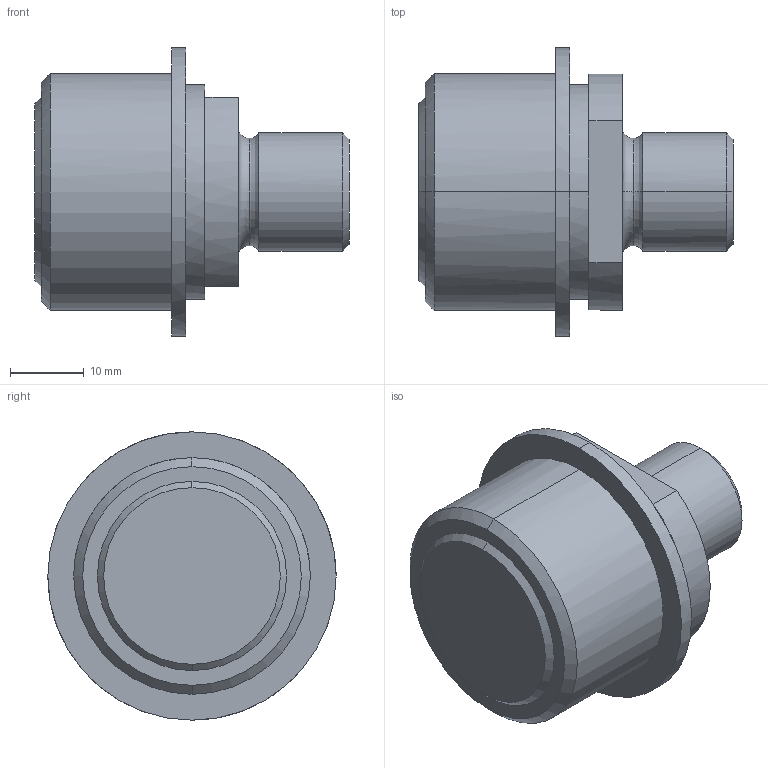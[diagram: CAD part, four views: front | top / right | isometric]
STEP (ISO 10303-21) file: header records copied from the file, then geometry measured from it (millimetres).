
FILE_DESCRIPTION(('CATIA V5 STEP Exchange'),'2;1');
FILE_NAME('C:\Users\Utente\Desktop\IO LAVORO\3D X SITO CF\X SITO\PLASTICA\AGS\AGS3302M16.stp','2021-02-21T19:10:51+00:00',('none'),('none'),'CATIA Version 5 Release 20 GA (IN-10)','CATIA V5 STEP AP203','none');
FILE_SCHEMA(('CONFIG_CONTROL_DESIGN'));
Length unit declared in the file: millimetre
Products named in the file (1): AGS3302M16
Bounding box: 42.5 x 39 x 39 mm (x, y, z)
Volume: 24718.4 mm3; surface area: 5940.7 mm2
Topology: 1 solids, 1 shells, 32 faces, 90 edges, 64 vertices
Faces by surface type: plane 12, cylinder 10, cone 6, torus 4
Entity records: 1198 total; most frequent: CARTESIAN_POINT 343, ORIENTED_EDGE 180, DIRECTION 139, EDGE_CURVE 90, AXIS2_PLACEMENT_3D 82, VERTEX_POINT 64, CIRCLE 49, EDGE_LOOP 36
